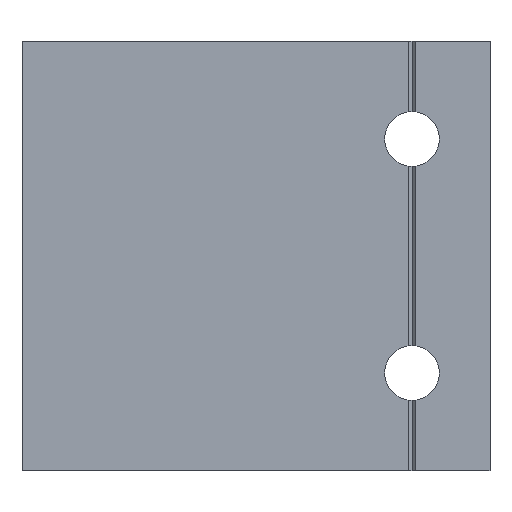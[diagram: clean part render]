
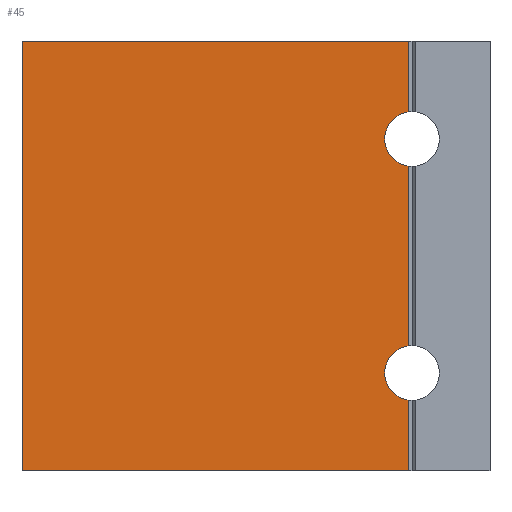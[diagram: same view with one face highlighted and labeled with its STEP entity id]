
A CAD part, front view. The second image highlights one B-rep face of the part: STEP entity #45.
In plain terms, the highlighted planar face has unit normal (0, -1, 0).
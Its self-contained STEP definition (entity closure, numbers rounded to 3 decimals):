
#5 = LINE ( 'NONE', #1399, #140 ) ;
#25 = CARTESIAN_POINT ( 'NONE',  ( 19.5, 0., -22.5 ) ) ;
#42 = EDGE_CURVE ( 'NONE', #1504, #918, #272, .T. ) ;
#43 = AXIS2_PLACEMENT_3D ( 'NONE', #378, #246, #1221 ) ;
#45 = ADVANCED_FACE ( 'NONE', ( #398 ), #650, .T. ) ;
#70 = EDGE_LOOP ( 'NONE', ( #1143, #275, #463, #1547, #1354, #1389, #1646, #181 ) ) ;
#108 = CARTESIAN_POINT ( 'NONE',  ( 19.5, 0., -22.5 ) ) ;
#140 = VECTOR ( 'NONE', #716, 1000. ) ;
#181 = ORIENTED_EDGE ( 'NONE', *, *, #1307, .F. ) ;
#246 = DIRECTION ( 'NONE',  ( 0., -1., 0. ) ) ;
#272 = CIRCLE ( 'NONE', #43, 3.5 ) ;
#275 = ORIENTED_EDGE ( 'NONE', *, *, #599, .F. ) ;
#286 = DIRECTION ( 'NONE',  ( 0., 0., -1. ) ) ;
#312 = VECTOR ( 'NONE', #788, 1000. ) ;
#327 = VECTOR ( 'NONE', #1014, 1000. ) ;
#356 = DIRECTION ( 'NONE',  ( 0., 0., -1. ) ) ;
#360 = EDGE_CURVE ( 'NONE', #669, #827, #1175, .T. ) ;
#361 = EDGE_CURVE ( 'NONE', #1248, #1362, #616, .T. ) ;
#378 = CARTESIAN_POINT ( 'NONE',  ( 20., 0., -65. ) ) ;
#390 = AXIS2_PLACEMENT_3D ( 'NONE', #1160, #1324, #1734 ) ;
#398 = FACE_OUTER_BOUND ( 'NONE', #70, .T. ) ;
#463 = ORIENTED_EDGE ( 'NONE', *, *, #470, .F. ) ;
#470 = EDGE_CURVE ( 'NONE', #827, #1652, #800, .T. ) ;
#512 = DIRECTION ( 'NONE',  ( 1., 0., 0. ) ) ;
#542 = VECTOR ( 'NONE', #949, 1000. ) ;
#564 = CARTESIAN_POINT ( 'NONE',  ( 19.5, 0., -77.5 ) ) ;
#599 = EDGE_CURVE ( 'NONE', #1652, #1504, #648, .T. ) ;
#616 = LINE ( 'NONE', #885, #327 ) ;
#648 = LINE ( 'NONE', #108, #312 ) ;
#650 = PLANE ( 'NONE',  #1265 ) ;
#669 = VERTEX_POINT ( 'NONE', #1056 ) ;
#678 = CARTESIAN_POINT ( 'NONE',  ( -30., 0., -77.5 ) ) ;
#695 = CARTESIAN_POINT ( 'NONE',  ( -30., 0., -22.5 ) ) ;
#716 = DIRECTION ( 'NONE',  ( -1., 0., 0. ) ) ;
#758 = CARTESIAN_POINT ( 'NONE',  ( 19.5, 0., -22.5 ) ) ;
#788 = DIRECTION ( 'NONE',  ( 0., 0., -1. ) ) ;
#800 = CIRCLE ( 'NONE', #390, 3.5 ) ;
#827 = VERTEX_POINT ( 'NONE', #1129 ) ;
#885 = CARTESIAN_POINT ( 'NONE',  ( 19.5, 0., -77.5 ) ) ;
#918 = VERTEX_POINT ( 'NONE', #1356 ) ;
#929 = CARTESIAN_POINT ( 'NONE',  ( 19.5, 0., -38.464 ) ) ;
#933 = CARTESIAN_POINT ( 'NONE',  ( 19.5, 0., -22.5 ) ) ;
#949 = DIRECTION ( 'NONE',  ( 0., 0., -1. ) ) ;
#969 = LINE ( 'NONE', #1543, #542 ) ;
#972 = LINE ( 'NONE', #25, #1657 ) ;
#1014 = DIRECTION ( 'NONE',  ( -1., 0., 0. ) ) ;
#1056 = CARTESIAN_POINT ( 'NONE',  ( 19.5, 0., -22.5 ) ) ;
#1098 = VERTEX_POINT ( 'NONE', #695 ) ;
#1118 = VECTOR ( 'NONE', #356, 1000. ) ;
#1129 = CARTESIAN_POINT ( 'NONE',  ( 19.5, 0., -31.536 ) ) ;
#1143 = ORIENTED_EDGE ( 'NONE', *, *, #42, .F. ) ;
#1160 = CARTESIAN_POINT ( 'NONE',  ( 20., 0., -35. ) ) ;
#1175 = LINE ( 'NONE', #758, #1118 ) ;
#1206 = DIRECTION ( 'NONE',  ( 0., -1., 0. ) ) ;
#1221 = DIRECTION ( 'NONE',  ( 0., 0., -1. ) ) ;
#1248 = VERTEX_POINT ( 'NONE', #564 ) ;
#1265 = AXIS2_PLACEMENT_3D ( 'NONE', #933, #1206, #512 ) ;
#1289 = CARTESIAN_POINT ( 'NONE',  ( 19.5, 0., -61.536 ) ) ;
#1307 = EDGE_CURVE ( 'NONE', #918, #1248, #972, .T. ) ;
#1324 = DIRECTION ( 'NONE',  ( 0., -1., 0. ) ) ;
#1343 = EDGE_CURVE ( 'NONE', #669, #1098, #5, .T. ) ;
#1354 = ORIENTED_EDGE ( 'NONE', *, *, #1343, .T. ) ;
#1356 = CARTESIAN_POINT ( 'NONE',  ( 19.5, 0., -68.464 ) ) ;
#1362 = VERTEX_POINT ( 'NONE', #678 ) ;
#1389 = ORIENTED_EDGE ( 'NONE', *, *, #1394, .T. ) ;
#1394 = EDGE_CURVE ( 'NONE', #1098, #1362, #969, .T. ) ;
#1399 = CARTESIAN_POINT ( 'NONE',  ( 19.5, 0., -22.5 ) ) ;
#1504 = VERTEX_POINT ( 'NONE', #1289 ) ;
#1543 = CARTESIAN_POINT ( 'NONE',  ( -30., 0., -22.5 ) ) ;
#1547 = ORIENTED_EDGE ( 'NONE', *, *, #360, .F. ) ;
#1646 = ORIENTED_EDGE ( 'NONE', *, *, #361, .F. ) ;
#1652 = VERTEX_POINT ( 'NONE', #929 ) ;
#1657 = VECTOR ( 'NONE', #286, 1000. ) ;
#1734 = DIRECTION ( 'NONE',  ( 0., 0., -1. ) ) ;
